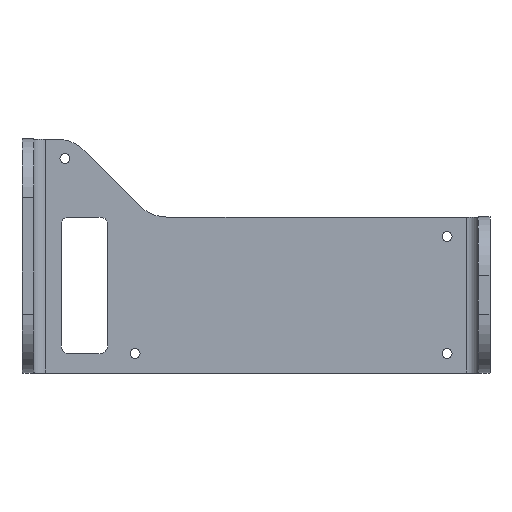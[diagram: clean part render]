
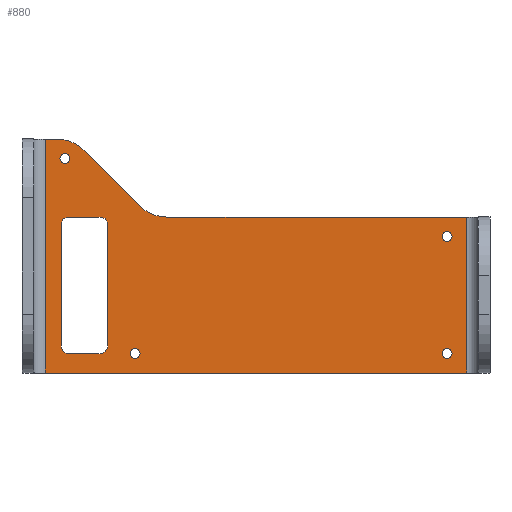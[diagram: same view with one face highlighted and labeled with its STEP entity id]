
A CAD part, top view. The second image highlights one B-rep face of the part: STEP entity #880.
In plain terms, the highlighted planar face has unit normal (0, 0, 1).
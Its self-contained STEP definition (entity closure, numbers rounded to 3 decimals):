
#26=FACE_BOUND('',#164,.T.);
#27=FACE_BOUND('',#165,.T.);
#28=FACE_BOUND('',#166,.T.);
#29=FACE_BOUND('',#167,.T.);
#30=FACE_BOUND('',#168,.T.);
#56=PLANE('',#986);
#104=FACE_OUTER_BOUND('',#163,.T.);
#163=EDGE_LOOP('',(#791,#792,#793,#794,#795,#796,#797,#798));
#164=EDGE_LOOP('',(#799));
#165=EDGE_LOOP('',(#800));
#166=EDGE_LOOP('',(#801));
#167=EDGE_LOOP('',(#802));
#168=EDGE_LOOP('',(#803,#804,#805,#806,#807,#808,#809,#810));
#173=LINE('',#1266,#251);
#176=LINE('',#1277,#254);
#180=LINE('',#1289,#258);
#183=LINE('',#1298,#261);
#189=LINE('',#1314,#267);
#193=LINE('',#1326,#271);
#239=LINE('',#1474,#317);
#244=LINE('',#1491,#322);
#245=LINE('',#1494,#323);
#246=LINE('',#1496,#324);
#251=VECTOR('',#1001,10.);
#254=VECTOR('',#1012,10.);
#258=VECTOR('',#1024,10.);
#261=VECTOR('',#1035,10.);
#267=VECTOR('',#1049,10.);
#271=VECTOR('',#1061,10.);
#317=VECTOR('',#1215,10.);
#322=VECTOR('',#1240,10.);
#323=VECTOR('',#1245,10.);
#324=VECTOR('',#1248,10.);
#326=CIRCLE('',#897,2.);
#328=CIRCLE('',#901,2.);
#330=CIRCLE('',#905,2.);
#332=CIRCLE('',#909,2.);
#334=CIRCLE('',#913,10.);
#335=CIRCLE('',#916,10.);
#353=CIRCLE('',#947,1.265);
#354=CIRCLE('',#949,1.265);
#355=CIRCLE('',#951,1.265);
#356=CIRCLE('',#953,1.265);
#371=VERTEX_POINT('',#1256);
#372=VERTEX_POINT('',#1258);
#374=VERTEX_POINT('',#1264);
#377=VERTEX_POINT('',#1271);
#378=VERTEX_POINT('',#1273);
#381=VERTEX_POINT('',#1283);
#382=VERTEX_POINT('',#1285);
#384=VERTEX_POINT('',#1294);
#387=VERTEX_POINT('',#1304);
#388=VERTEX_POINT('',#1306);
#390=VERTEX_POINT('',#1312);
#391=VERTEX_POINT('',#1316);
#394=VERTEX_POINT('',#1324);
#430=VERTEX_POINT('',#1418);
#431=VERTEX_POINT('',#1422);
#432=VERTEX_POINT('',#1426);
#433=VERTEX_POINT('',#1430);
#441=VERTEX_POINT('',#1466);
#442=VERTEX_POINT('',#1470);
#444=VERTEX_POINT('',#1487);
#447=EDGE_CURVE('',#371,#372,#326,.T.);
#451=EDGE_CURVE('',#371,#374,#173,.T.);
#454=EDGE_CURVE('',#377,#378,#328,.T.);
#456=EDGE_CURVE('',#377,#372,#176,.T.);
#460=EDGE_CURVE('',#381,#382,#330,.T.);
#462=EDGE_CURVE('',#381,#378,#180,.T.);
#466=EDGE_CURVE('',#384,#374,#332,.T.);
#467=EDGE_CURVE('',#384,#382,#183,.T.);
#471=EDGE_CURVE('',#387,#388,#334,.T.);
#475=EDGE_CURVE('',#387,#390,#189,.T.);
#476=EDGE_CURVE('',#391,#390,#335,.T.);
#481=EDGE_CURVE('',#391,#394,#193,.T.);
#527=EDGE_CURVE('',#430,#430,#353,.T.);
#529=EDGE_CURVE('',#431,#431,#354,.T.);
#531=EDGE_CURVE('',#432,#432,#355,.T.);
#533=EDGE_CURVE('',#433,#433,#356,.T.);
#555=EDGE_CURVE('',#441,#442,#239,.T.);
#564=EDGE_CURVE('',#394,#444,#244,.T.);
#565=EDGE_CURVE('',#442,#388,#245,.T.);
#566=EDGE_CURVE('',#444,#441,#246,.T.);
#791=ORIENTED_EDGE('',*,*,#476,.F.);
#792=ORIENTED_EDGE('',*,*,#481,.T.);
#793=ORIENTED_EDGE('',*,*,#564,.T.);
#794=ORIENTED_EDGE('',*,*,#566,.T.);
#795=ORIENTED_EDGE('',*,*,#555,.T.);
#796=ORIENTED_EDGE('',*,*,#565,.T.);
#797=ORIENTED_EDGE('',*,*,#471,.F.);
#798=ORIENTED_EDGE('',*,*,#475,.T.);
#799=ORIENTED_EDGE('',*,*,#527,.T.);
#800=ORIENTED_EDGE('',*,*,#529,.T.);
#801=ORIENTED_EDGE('',*,*,#531,.T.);
#802=ORIENTED_EDGE('',*,*,#533,.T.);
#803=ORIENTED_EDGE('',*,*,#467,.T.);
#804=ORIENTED_EDGE('',*,*,#460,.F.);
#805=ORIENTED_EDGE('',*,*,#462,.T.);
#806=ORIENTED_EDGE('',*,*,#454,.F.);
#807=ORIENTED_EDGE('',*,*,#456,.T.);
#808=ORIENTED_EDGE('',*,*,#447,.F.);
#809=ORIENTED_EDGE('',*,*,#451,.T.);
#810=ORIENTED_EDGE('',*,*,#466,.F.);
#880=ADVANCED_FACE('',(#104,#26,#27,#28,#29,#30),#56,.T.);
#897=AXIS2_PLACEMENT_3D('',#1259,#994,#995);
#901=AXIS2_PLACEMENT_3D('',#1274,#1007,#1008);
#905=AXIS2_PLACEMENT_3D('',#1286,#1019,#1020);
#909=AXIS2_PLACEMENT_3D('',#1296,#1031,#1032);
#913=AXIS2_PLACEMENT_3D('',#1307,#1042,#1043);
#916=AXIS2_PLACEMENT_3D('',#1317,#1052,#1053);
#947=AXIS2_PLACEMENT_3D('',#1420,#1147,#1148);
#949=AXIS2_PLACEMENT_3D('',#1424,#1152,#1153);
#951=AXIS2_PLACEMENT_3D('',#1428,#1157,#1158);
#953=AXIS2_PLACEMENT_3D('',#1432,#1162,#1163);
#986=AXIS2_PLACEMENT_3D('',#1497,#1249,#1250);
#994=DIRECTION('center_axis',(0.,0.,1.));
#995=DIRECTION('ref_axis',(0.707,0.707,0.));
#1001=DIRECTION('',(0.,-1.,0.));
#1007=DIRECTION('center_axis',(0.,0.,1.));
#1008=DIRECTION('ref_axis',(-0.707,0.707,0.));
#1012=DIRECTION('',(1.,0.,0.));
#1019=DIRECTION('center_axis',(0.,0.,1.));
#1020=DIRECTION('ref_axis',(-0.707,-0.707,0.));
#1024=DIRECTION('',(0.,1.,0.));
#1031=DIRECTION('center_axis',(0.,0.,1.));
#1032=DIRECTION('ref_axis',(0.707,-0.707,0.));
#1035=DIRECTION('',(-1.,0.,0.));
#1042=DIRECTION('center_axis',(0.,0.,1.));
#1043=DIRECTION('ref_axis',(-0.383,-0.924,0.));
#1049=DIRECTION('',(-0.707,0.707,0.));
#1052=DIRECTION('center_axis',(0.,0.,-1.));
#1053=DIRECTION('ref_axis',(0.383,0.924,0.));
#1061=DIRECTION('',(-1.,0.,0.));
#1147=DIRECTION('center_axis',(0.,0.,-1.));
#1148=DIRECTION('ref_axis',(-1.,0.,0.));
#1152=DIRECTION('center_axis',(0.,0.,-1.));
#1153=DIRECTION('ref_axis',(-1.,0.,0.));
#1157=DIRECTION('center_axis',(0.,0.,-1.));
#1158=DIRECTION('ref_axis',(-1.,0.,0.));
#1162=DIRECTION('center_axis',(0.,0.,-1.));
#1163=DIRECTION('ref_axis',(-1.,0.,0.));
#1215=DIRECTION('',(0.,1.,0.));
#1240=DIRECTION('',(0.,-1.,0.));
#1245=DIRECTION('',(-1.,0.,0.));
#1248=DIRECTION('',(1.,0.,0.));
#1249=DIRECTION('center_axis',(0.,0.,1.));
#1250=DIRECTION('ref_axis',(1.,0.,0.));
#1256=CARTESIAN_POINT('',(179.9,-41.791,3.));
#1258=CARTESIAN_POINT('',(177.9,-39.791,3.));
#1259=CARTESIAN_POINT('Origin',(177.9,-41.791,3.));
#1264=CARTESIAN_POINT('',(179.9,-72.791,3.));
#1266=CARTESIAN_POINT('',(179.9,-39.791,3.));
#1271=CARTESIAN_POINT('',(169.9,-39.791,3.));
#1273=CARTESIAN_POINT('',(167.9,-41.791,3.));
#1274=CARTESIAN_POINT('Origin',(169.9,-41.791,3.));
#1277=CARTESIAN_POINT('',(167.9,-39.791,3.));
#1283=CARTESIAN_POINT('',(167.9,-72.791,3.));
#1285=CARTESIAN_POINT('',(169.9,-74.791,3.));
#1286=CARTESIAN_POINT('Origin',(169.9,-72.791,3.));
#1289=CARTESIAN_POINT('',(167.9,-74.791,3.));
#1294=CARTESIAN_POINT('',(177.9,-74.791,3.));
#1296=CARTESIAN_POINT('Origin',(177.9,-72.791,3.));
#1298=CARTESIAN_POINT('',(179.9,-74.791,3.));
#1304=CARTESIAN_POINT('',(187.971,-36.862,3.));
#1306=CARTESIAN_POINT('',(195.042,-39.791,3.));
#1307=CARTESIAN_POINT('Origin',(195.042,-29.791,3.));
#1312=CARTESIAN_POINT('',(173.829,-22.719,3.));
#1314=CARTESIAN_POINT('',(190.9,-39.791,3.));
#1316=CARTESIAN_POINT('',(166.758,-19.791,3.));
#1317=CARTESIAN_POINT('Origin',(166.758,-29.791,3.));
#1324=CARTESIAN_POINT('',(163.9,-19.791,3.));
#1326=CARTESIAN_POINT('',(170.9,-19.791,3.));
#1418=CARTESIAN_POINT('',(268.165,-74.791,3.));
#1420=CARTESIAN_POINT('Origin',(266.9,-74.791,3.));
#1422=CARTESIAN_POINT('',(188.165,-74.791,3.));
#1424=CARTESIAN_POINT('Origin',(186.9,-74.791,3.));
#1426=CARTESIAN_POINT('',(170.165,-24.791,3.));
#1428=CARTESIAN_POINT('Origin',(168.9,-24.791,3.));
#1430=CARTESIAN_POINT('',(268.165,-44.791,3.));
#1432=CARTESIAN_POINT('Origin',(266.9,-44.791,3.));
#1466=CARTESIAN_POINT('',(271.9,-79.791,3.));
#1470=CARTESIAN_POINT('',(271.9,-39.791,3.));
#1474=CARTESIAN_POINT('',(271.9,-64.791,3.));
#1487=CARTESIAN_POINT('',(163.9,-79.791,3.));
#1491=CARTESIAN_POINT('',(163.9,-34.791,3.));
#1494=CARTESIAN_POINT('',(274.9,-39.791,3.));
#1496=CARTESIAN_POINT('',(160.9,-79.791,3.));
#1497=CARTESIAN_POINT('Origin',(217.9,-49.791,3.));
